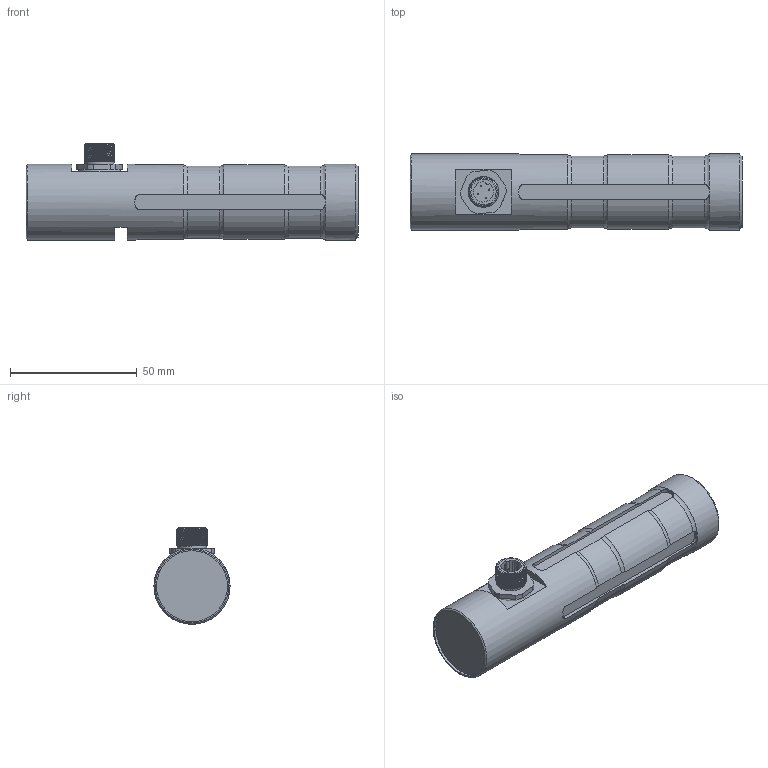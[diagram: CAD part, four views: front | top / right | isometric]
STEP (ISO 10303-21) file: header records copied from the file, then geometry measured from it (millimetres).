
FILE_DESCRIPTION(/* description */ ('Alibre Inc.'),/* implementation_level */ '2;1');
FILE_NAME(/* name */ 'export0',/* time_stamp */ '2016-05-31T20:39:47+02:00',/* author */ (''),/* organization */ (''),/* preprocessor_version */ 'ST-DEVELOPER v14',/* originating_system */ 'Alibre',/* authorisation */ '');
FILE_SCHEMA (('CONFIG_CONTROL_DESIGN'));
Length unit declared in the file: centimetre
Products named in the file (6): ID_1; ID_2; ID_3; ID_4
Bounding box: 131 x 30 x 38 mm (x, y, z)
Volume: 86893.4 mm3; surface area: 18511.4 mm2
Topology: 8 solids, 8 shells, 227 faces, 555 edges, 354 vertices
Faces by surface type: plane 107, cylinder 74, bspline 23, torus 17, cone 6
Full cylindrical faces by diameter (mm): 0.5 x8, 8 x2, 10 x4, 11.5 x1, 13 x1, 14.376 x1, 28 x1, 30 x2
Entity records: 17191 total; most frequent: CARTESIAN_POINT 12123, ORIENTED_EDGE 1036, DIRECTION 672, EDGE_CURVE 513, VERTEX_POINT 341, FACE_BOUND 273, EDGE_LOOP 272, AXIS2_PLACEMENT_3D 265
